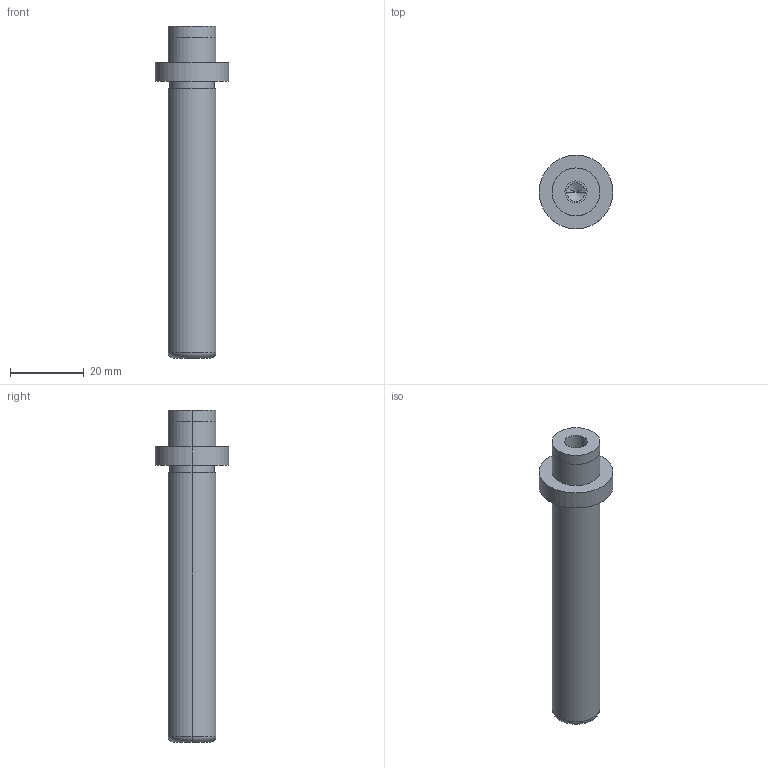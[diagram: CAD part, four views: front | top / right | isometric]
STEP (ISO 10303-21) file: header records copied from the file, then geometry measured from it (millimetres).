
FILE_DESCRIPTION(/* description */ (''),/* implementation_level */ '2;1');
FILE_NAME(/* name */ '3d_sgpr13-80_00289_r00.stp',/* time_stamp */ '2011-01-10T14:11:06+09:00',/* author */ ('MISUMI'),/* organization */ (''),/* preprocessor_version */ 'ST-DEVELOPER v11',/* originating_system */ 'UGS - NX 5.0',/* authorisation */ '');
FILE_SCHEMA (('CONFIG_CONTROL_DESIGN'));
Length unit declared in the file: millimetre
Products named in the file (1): 3d_sgpr13-80_00289_r00
Bounding box: 20 x 20 x 90 mm (x, y, z)
Volume: 12302.6 mm3; surface area: 4752.5 mm2
Topology: 1 solids, 1 shells, 24 faces, 48 edges, 29 vertices
Faces by surface type: cylinder 14, plane 6, cone 2, torus 2
Entity records: 706 total; most frequent: DIRECTION 126, CARTESIAN_POINT 100, ORIENTED_EDGE 92, AXIS2_PLACEMENT_3D 55, EDGE_CURVE 46, CIRCLE 30, EDGE_LOOP 29, VERTEX_POINT 29
